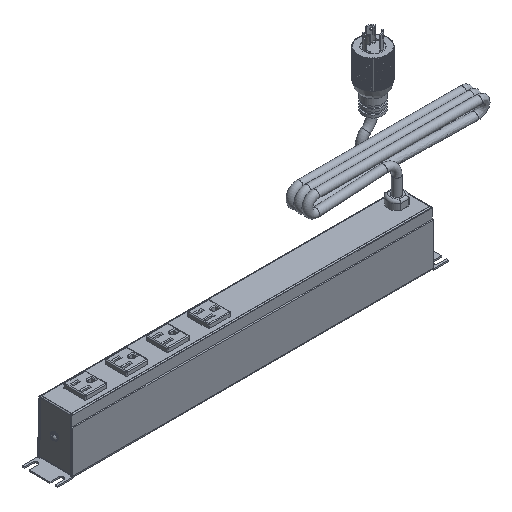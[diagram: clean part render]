
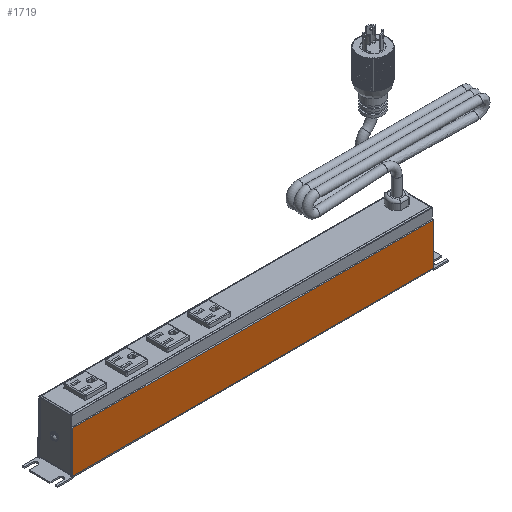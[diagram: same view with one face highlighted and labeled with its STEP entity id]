
A CAD part, isometric view. The second image highlights one B-rep face of the part: STEP entity #1719.
In plain terms, the highlighted planar face has unit normal (0, -1, 0).
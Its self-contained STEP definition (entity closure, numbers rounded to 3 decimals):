
#1510=CARTESIAN_POINT('',(-222.25,-21.819,2.588));
#1511=VERTEX_POINT('',#1510);
#1512=CARTESIAN_POINT('',(222.25,-21.819,2.588));
#1513=VERTEX_POINT('',#1512);
#1514=CARTESIAN_POINT('',(-222.25,-21.819,2.588));
#1515=DIRECTION('',(1.0,0.0,0.0));
#1516=VECTOR('',#1515,444.5);
#1517=LINE('',#1514,#1516);
#1518=EDGE_CURVE('',#1511,#1513,#1517,.T.);
#1568=CARTESIAN_POINT('',(222.25,-21.819,53.975));
#1569=VERTEX_POINT('',#1568);
#1576=CARTESIAN_POINT('',(222.25,-21.819,53.975));
#1577=DIRECTION('',(0.0,0.0,-1.0));
#1578=VECTOR('',#1577,51.387);
#1579=LINE('',#1576,#1578);
#1580=EDGE_CURVE('',#1569,#1513,#1579,.T.);
#1673=CARTESIAN_POINT('',(-222.25,-21.819,53.975));
#1674=VERTEX_POINT('',#1673);
#1675=CARTESIAN_POINT('',(-222.25,-21.819,2.588));
#1676=DIRECTION('',(0.0,0.0,1.0));
#1677=VECTOR('',#1676,51.388);
#1678=LINE('',#1675,#1677);
#1679=EDGE_CURVE('',#1511,#1674,#1678,.T.);
#1696=CARTESIAN_POINT('',(-222.25,-21.819,53.975));
#1697=DIRECTION('',(1.0,0.0,0.0));
#1698=VECTOR('',#1697,444.5);
#1699=LINE('',#1696,#1698);
#1700=EDGE_CURVE('',#1674,#1569,#1699,.T.);
#1708=CARTESIAN_POINT('',(0.,-21.819,26.947));
#1709=DIRECTION('',(0.0,1.0,0.0));
#1710=DIRECTION('',(1.0,0.0,0.0));
#1711=AXIS2_PLACEMENT_3D('',#1708,#1709,#1710);
#1712=PLANE('',#1711);
#1713=ORIENTED_EDGE('',*,*,#1518,.T.);
#1714=ORIENTED_EDGE('',*,*,#1580,.F.);
#1715=ORIENTED_EDGE('',*,*,#1700,.F.);
#1716=ORIENTED_EDGE('',*,*,#1679,.F.);
#1717=EDGE_LOOP('',(#1713,#1714,#1715,#1716));
#1718=FACE_OUTER_BOUND('',#1717,.T.);
#1719=ADVANCED_FACE('',(#1718),#1712,.F.);
